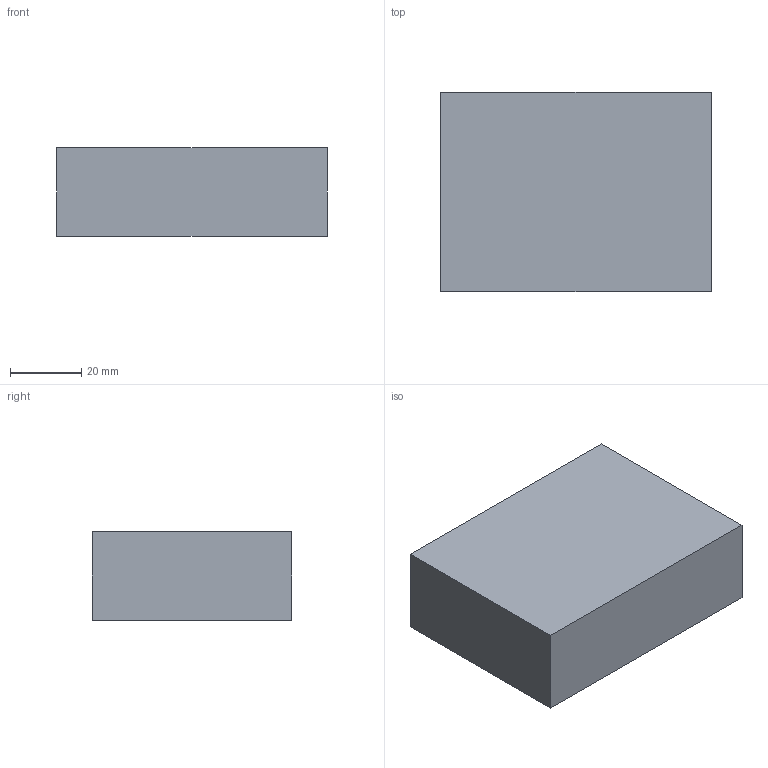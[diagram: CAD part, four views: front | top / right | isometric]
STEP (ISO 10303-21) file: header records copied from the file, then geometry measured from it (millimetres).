
FILE_DESCRIPTION(('Open CASCADE Model'),'2;1');
FILE_NAME('Open CASCADE Shape Model','2026-11-23T20:25:51',('Author'),( 'Open CASCADE'),'Open CASCADE STEP processor 7.9','Open CASCADE 7.9' ,'Unknown');
FILE_SCHEMA(('AUTOMOTIVE_DESIGN { 1 0 10303 214 1 1 1 1 }'));
Length unit declared in the file: millimetre
Products named in the file (1): Open CASCADE STEP translator 7.9 21
Bounding box: 76 x 56 x 25 mm (x, y, z)
Volume: 106400 mm3; surface area: 15112 mm2
Topology: 1 solids, 1 shells, 6 faces, 12 edges, 8 vertices
Faces by surface type: plane 6
Entity records: 322 total; most frequent: CARTESIAN_POINT 51, DIRECTION 50, LINE 36, VECTOR 36, ORIENTED_EDGE 24, PCURVE 24, DEFINITIONAL_REPRESENTATION 24, EDGE_CURVE 12
